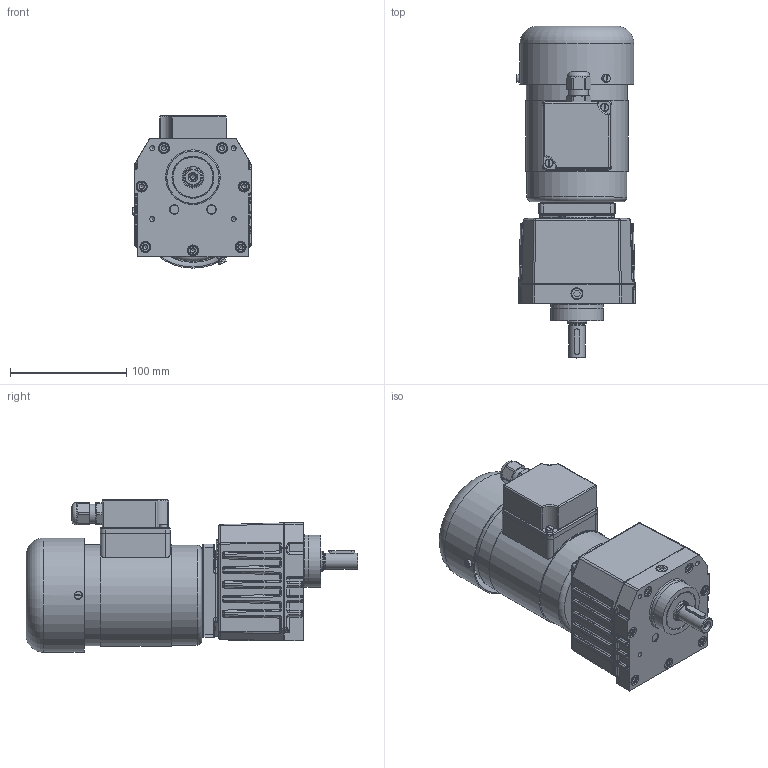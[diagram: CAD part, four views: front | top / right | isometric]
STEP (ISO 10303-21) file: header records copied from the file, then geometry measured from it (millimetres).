
FILE_DESCRIPTION(/* description */ (''),/* implementation_level */ '2;1');
FILE_NAME(/* name */ 'H:/CAD/CAD_Fusion360/Modelle_2D_3D/stp -Dateiformat/Reihe_G2/G239-G269/Motor 0,03 kW/G239_G269-03-4_B14_KK_C.step',/* time_stamp */ '2022-02-04T14:04:31+01:00',/* author */ (''),/* organization */ (''),/* preprocessor_version */ 'ST-DEVELOPER v18.1',/* originating_system */ 'Autodesk Translation Framework v10.13.0.1454',/* authorisation */ '');
FILE_SCHEMA (('AUTOMOTIVE_DESIGN { 1 0 10303 214 3 1 1 }'));
Length unit declared in the file: millimetre
Products named in the file (42): G239_G269-03-4_B14_KK_C; BG_G239_G269_B14_Grundteile; 1200053010_09_Gehaeuse_B14_B5_239_269; 1210053120_00; 1931200005 OR6-1 Rundschnurring; 1200053300_00; 1932014504 M5x12 DIN965 Senkkopfschraube; 1200053280_02; 1932010012 M5x12 DIN912 Zylinderschraube; 1933210008 35x1,5 DIN472 Sicherungsring; 1210053030_00_Abtriebswelle_239_269; 1933200010 A17x1 DIN471 Sicherungsring; 1933200003 A10x1 DIN471 Sicherungsring; 1935400041 PS17x24x1 DIN988 Passscheibe; 1930040004 6003 2RS DIN625 Rillenkugellager; _HPC - S6003-2RS_PART1; _HPC - S6003-2RS_PART2; _HPC - S6003-2RS_PART3; _HPC - S6003-2RS_PART4; _HPC - S6003-2RS_PART5; 1930040002 6000 2RS DIN625 Rillenkugellager; _HPC - S6000-2RS_PART1; _HPC - S6000-2RS_PART2; _HPC - S6000-2RS_PART3; _HPC - S6000-2RS_PART4; _HPC - S6000-2RS_PART5; 1932500029 A5x5x22 DIN6885 Passfeder; 1931000033 RDR17x35x7 DIN3760 Radialdichtring; 1932010013 M5x16 DIN912 Zylinderschraube; 1933100006 A5,3 DIN6797 Zahnscheibe; 1932007003 M10x1 DIN906 Verschlussschraube; 1931200040 OR54-1,5 Rundschnurring; BG_1222011020_G2_Motoranbau_0,03kW Kopieren; 1220013130_02; 1931000017 RDR12x25x5 DIN3760 Radialdichtring; 1220013150_02_Kupplungshülse_G2_Motor; 1931300005 Al4x8 DIN7603 Dichtscheibe; 1932010004 M4x16 DIN912 Zylinderschraube; BG_1222013060_G2_Motor_0,03kW_KK_C; 1220013060_G2_Motor_0,02_0,03kW_Dummy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
Assembly tree (81 placements, depth 4):
  G239_G269-03-4_B14_KK_C
    BG_G239_G269_B14_Grundteile
      1200053010_09_Gehaeuse_B14_B5_239_269
      1210053120_00  x2
      1931200005 OR6-1 Rundschnurring  x2
      1200053300_00
      1932014504 M5x12 DIN965 Senkkopfschraube
      1200053280_02
      1932010012 M5x12 DIN912 Zylinderschraube  x2
      1933210008 35x1,5 DIN472 Sicherungsring  x2
      1210053030_00_Abtriebswelle_239_269
      1933200010 A17x1 DIN471 Sicherungsring
      1933200003 A10x1 DIN471 Sicherungsring
      1935400041 PS17x24x1 DIN988 Passscheibe
      1930040004 6003 2RS DIN625 Rillenkugellager
        _HPC - S6003-2RS_PART1
        _HPC - S6003-2RS_PART2
        _HPC - S6003-2RS_PART3
        _HPC - S6003-2RS_PART4
        _HPC - S6003-2RS_PART5  x8
      1930040002 6000 2RS DIN625 Rillenkugellager
        _HPC - S6000-2RS_PART1
        _HPC - S6000-2RS_PART2
        _HPC - S6000-2RS_PART3
        _HPC - S6000-2RS_PART4
        _HPC - S6000-2RS_PART5  x8
      1932500029 A5x5x22 DIN6885 Passfeder
      1931000033 RDR17x35x7 DIN3760 Radialdichtring
      1932010013 M5x16 DIN912 Zylinderschraube  x7
      1933100006 A5,3 DIN6797 Zahnscheibe  x7
      1932007003 M10x1 DIN906 Verschlussschraube
      1931200040 OR54-1,5 Rundschnurring
    BG_1222011020_G2_Motoranbau_0,03kW Kopieren
      1220013130_02
      1931000017 RDR12x25x5 DIN3760 Radialdichtring
      1220013150_02_Kupplungshülse_G2_Motor
      1931300005 Al4x8 DIN7603 Dichtscheibe  x4
      1932010004 M4x16 DIN912 Zylinderschraube  x4
    BG_1222013060_G2_Motor_0,03kW_KK_C
      1220013060_G2_Motor_0,02_0,03kW_Dummy
        1932001015  x5
        Kabelverschraubung
Bounding box: 101.6 x 285.4 x 131 mm (x, y, z)
Volume: 1246392.4 mm3; surface area: 284781.5 mm2
Topology: 80 solids, 85 shells, 2790 faces, 6816 edges, 4168 vertices
Faces by surface type: plane 1069, cylinder 1030, bspline 196, torus 195, cone 183, sphere 117
Full cylindrical faces by diameter (mm): 0.314 x5, 1.25 x1, 1.5 x2, 1.7 x2, 2.5 x4, 3.332 x6, 3.5 x8, 3.571 x5, 3.961 x10, 4 x9, 4.17 x1, 4.2 x19, 4.234 x7, 4.5 x4, 5 x22, 5.035 x2, 5.3 x15, 5.5 x10, 6.5 x2, 7 x8, 7.9 x6, 8 x15, 8.5 x9, 9 x2, 9.5 x7, 9.6 x2, 10 x5, 10.9 x1, 11 x1, 11.8 x4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
Entity records: 86318 total; most frequent: CARTESIAN_POINT 34973, DIRECTION 10808, ORIENTED_EDGE 10046, EDGE_CURVE 5023, AXIS2_PLACEMENT_3D 4227, VERTEX_POINT 3104, EDGE_LOOP 2409, LINE 2354
